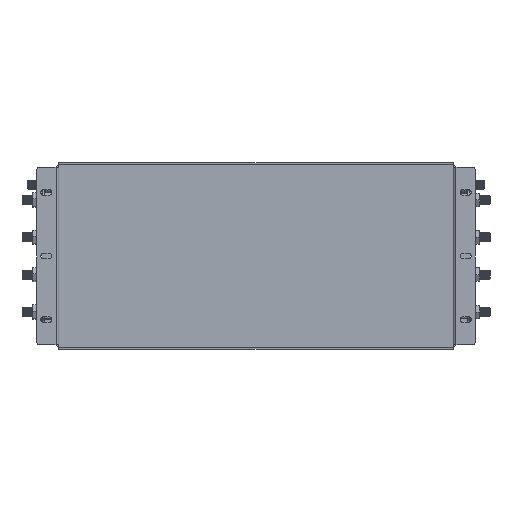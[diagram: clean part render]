
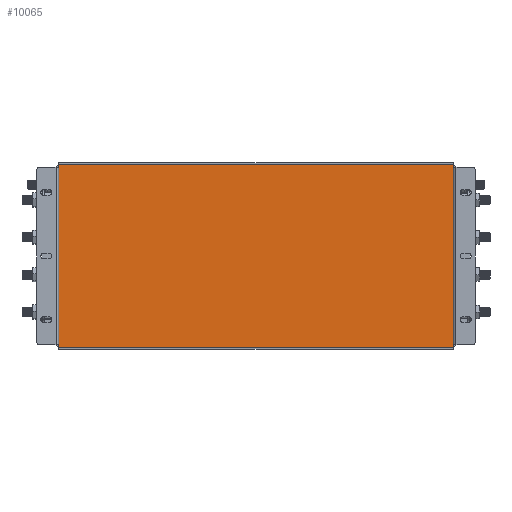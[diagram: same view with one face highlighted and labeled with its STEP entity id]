
A CAD part, front view. The second image highlights one B-rep face of the part: STEP entity #10065.
In plain terms, the highlighted planar face has unit normal (0, -1, 0).
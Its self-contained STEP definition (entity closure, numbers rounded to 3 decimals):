
#127 = VECTOR ( 'NONE', #14139, 1000. ) ;
#303 = DIRECTION ( 'NONE',  ( -1., 0., 0. ) ) ;
#780 = VECTOR ( 'NONE', #303, 1000. ) ;
#1825 = ORIENTED_EDGE ( 'NONE', *, *, #6054, .F. ) ;
#2049 = CARTESIAN_POINT ( 'NONE',  ( -264., -1.2, -122.5 ) ) ;
#2198 = LINE ( 'NONE', #4998, #5602 ) ;
#2390 = LINE ( 'NONE', #11746, #127 ) ;
#3259 = DIRECTION ( 'NONE',  ( 0., 0., 1. ) ) ;
#3378 = VERTEX_POINT ( 'NONE', #11756 ) ;
#3677 = CARTESIAN_POINT ( 'NONE',  ( 264., -1.2, 122.5 ) ) ;
#3800 = VERTEX_POINT ( 'NONE', #12688 ) ;
#3990 = LINE ( 'NONE', #7535, #780 ) ;
#4064 = EDGE_LOOP ( 'NONE', ( #8349, #7226, #6686, #1825 ) ) ;
#4998 = CARTESIAN_POINT ( 'NONE',  ( 264., -1.2, -122.5 ) ) ;
#5527 = AXIS2_PLACEMENT_3D ( 'NONE', #15473, #8173, #14145 ) ;
#5602 = VECTOR ( 'NONE', #11159, 1000. ) ;
#5884 = EDGE_CURVE ( 'NONE', #9462, #3800, #10093, .T. ) ;
#6054 = EDGE_CURVE ( 'NONE', #3378, #9462, #3990, .T. ) ;
#6686 = ORIENTED_EDGE ( 'NONE', *, *, #5884, .F. ) ;
#7226 = ORIENTED_EDGE ( 'NONE', *, *, #14758, .F. ) ;
#7535 = CARTESIAN_POINT ( 'NONE',  ( -264., -1.2, -122.5 ) ) ;
#8173 = DIRECTION ( 'NONE',  ( 0., 1., 0. ) ) ;
#8349 = ORIENTED_EDGE ( 'NONE', *, *, #8422, .F. ) ;
#8422 = EDGE_CURVE ( 'NONE', #13653, #3378, #2198, .T. ) ;
#9356 = PLANE ( 'NONE',  #5527 ) ;
#9462 = VERTEX_POINT ( 'NONE', #15548 ) ;
#10065 = ADVANCED_FACE ( 'NONE', ( #13550 ), #9356, .F. ) ;
#10093 = LINE ( 'NONE', #2049, #15630 ) ;
#11159 = DIRECTION ( 'NONE',  ( 0., 0., -1. ) ) ;
#11746 = CARTESIAN_POINT ( 'NONE',  ( -264., -1.2, 122.5 ) ) ;
#11756 = CARTESIAN_POINT ( 'NONE',  ( 264., -1.2, -122.5 ) ) ;
#12688 = CARTESIAN_POINT ( 'NONE',  ( -264., -1.2, 122.5 ) ) ;
#13550 = FACE_OUTER_BOUND ( 'NONE', #4064, .T. ) ;
#13653 = VERTEX_POINT ( 'NONE', #3677 ) ;
#14139 = DIRECTION ( 'NONE',  ( 1., 0., 0. ) ) ;
#14145 = DIRECTION ( 'NONE',  ( 0., 0., 1. ) ) ;
#14758 = EDGE_CURVE ( 'NONE', #3800, #13653, #2390, .T. ) ;
#15473 = CARTESIAN_POINT ( 'NONE',  ( 0., -1.2, 0. ) ) ;
#15548 = CARTESIAN_POINT ( 'NONE',  ( -264., -1.2, -122.5 ) ) ;
#15630 = VECTOR ( 'NONE', #3259, 1000. ) ;
